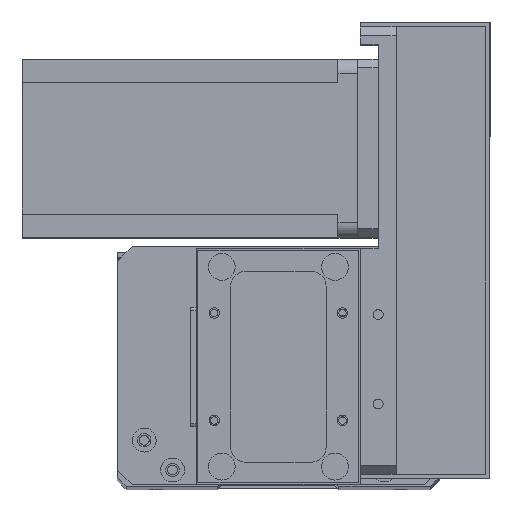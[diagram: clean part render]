
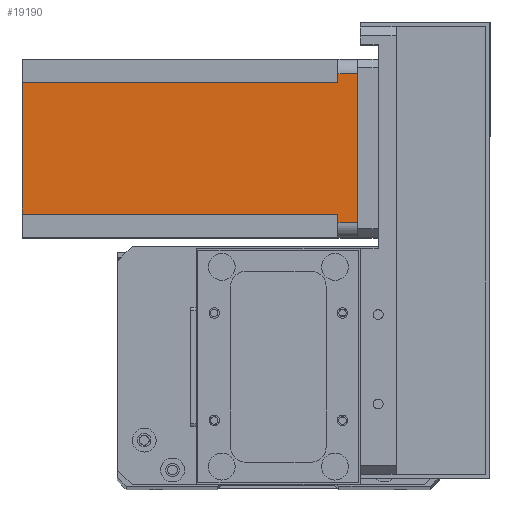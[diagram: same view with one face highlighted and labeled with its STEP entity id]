
A CAD part, top view. The second image highlights one B-rep face of the part: STEP entity #19190.
In plain terms, the highlighted planar face has unit normal (0, 0, 1) as drawn and (0, 1, 0) by its records, which use the part's own axes.
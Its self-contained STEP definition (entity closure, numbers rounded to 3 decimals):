
#122 = LINE ( 'NONE', #17289, #5462 ) ;
#140 = VECTOR ( 'NONE', #14496, 1000. ) ;
#625 = LINE ( 'NONE', #15542, #24850 ) ;
#713 = EDGE_CURVE ( 'NONE', #24112, #7636, #24372, .T. ) ;
#848 = CARTESIAN_POINT ( 'NONE',  ( 55., 60., -112.5 ) ) ;
#959 = DIRECTION ( 'NONE',  ( 0., 0., -1. ) ) ;
#1084 = CARTESIAN_POINT ( 'NONE',  ( 5., 60., 0. ) ) ;
#1354 = DIRECTION ( 'NONE',  ( 0., 0., 1. ) ) ;
#1752 = CARTESIAN_POINT ( 'NONE',  ( 0., 60., -112.5 ) ) ;
#1962 = ORIENTED_EDGE ( 'NONE', *, *, #21440, .F. ) ;
#2523 = LINE ( 'NONE', #23809, #13247 ) ;
#3259 = CARTESIAN_POINT ( 'NONE',  ( 8., 60., -112.5 ) ) ;
#3532 = FACE_OUTER_BOUND ( 'NONE', #17553, .T. ) ;
#4035 = DIRECTION ( 'NONE',  ( 0., 0., 1. ) ) ;
#5161 = VERTEX_POINT ( 'NONE', #23355 ) ;
#5364 = CARTESIAN_POINT ( 'NONE',  ( 52., 60., -6.5 ) ) ;
#5387 = ORIENTED_EDGE ( 'NONE', *, *, #14589, .T. ) ;
#5462 = VECTOR ( 'NONE', #1354, 1000. ) ;
#6537 = ORIENTED_EDGE ( 'NONE', *, *, #11508, .F. ) ;
#6639 = AXIS2_PLACEMENT_3D ( 'NONE', #1752, #17688, #4035 ) ;
#7327 = VERTEX_POINT ( 'NONE', #21091 ) ;
#7636 = VERTEX_POINT ( 'NONE', #19896 ) ;
#8824 = EDGE_CURVE ( 'NONE', #12025, #7636, #27290, .T. ) ;
#8895 = DIRECTION ( 'NONE',  ( -1., 0., 0. ) ) ;
#9018 = ORIENTED_EDGE ( 'NONE', *, *, #15761, .F. ) ;
#10091 = VERTEX_POINT ( 'NONE', #1084 ) ;
#10843 = PLANE ( 'NONE',  #6639 ) ;
#11508 = EDGE_CURVE ( 'NONE', #7327, #12025, #122, .T. ) ;
#12025 = VERTEX_POINT ( 'NONE', #16858 ) ;
#12674 = VERTEX_POINT ( 'NONE', #3259 ) ;
#12688 = EDGE_CURVE ( 'NONE', #7327, #12674, #2523, .T. ) ;
#13247 = VECTOR ( 'NONE', #26074, 1000. ) ;
#14468 = LINE ( 'NONE', #28209, #25868 ) ;
#14496 = DIRECTION ( 'NONE',  ( 0., 0., -1. ) ) ;
#14589 = EDGE_CURVE ( 'NONE', #5161, #10091, #29121, .T. ) ;
#15342 = VECTOR ( 'NONE', #8895, 1000. ) ;
#15542 = CARTESIAN_POINT ( 'NONE',  ( 0., 60., 0. ) ) ;
#15761 = EDGE_CURVE ( 'NONE', #17343, #12674, #14468, .T. ) ;
#16595 = CARTESIAN_POINT ( 'NONE',  ( 55., 60., 0. ) ) ;
#16858 = CARTESIAN_POINT ( 'NONE',  ( 52., 60., -6.5 ) ) ;
#17289 = CARTESIAN_POINT ( 'NONE',  ( 52., 60., -112.5 ) ) ;
#17343 = VERTEX_POINT ( 'NONE', #25262 ) ;
#17553 = EDGE_LOOP ( 'NONE', ( #1962, #21631, #29012, #6537, #23896, #9018, #25599, #5387 ) ) ;
#17688 = DIRECTION ( 'NONE',  ( 0., 1., 0. ) ) ;
#18484 = EDGE_CURVE ( 'NONE', #17343, #5161, #21411, .T. ) ;
#19000 = DIRECTION ( 'NONE',  ( 1., 0., 0. ) ) ;
#19190 = ADVANCED_FACE ( 'NONE', ( #3532 ), #10843, .T. ) ;
#19896 = CARTESIAN_POINT ( 'NONE',  ( 55., 60., -6.5 ) ) ;
#21091 = CARTESIAN_POINT ( 'NONE',  ( 52., 60., -112.5 ) ) ;
#21411 = LINE ( 'NONE', #22525, #15342 ) ;
#21440 = EDGE_CURVE ( 'NONE', #24112, #10091, #625, .T. ) ;
#21631 = ORIENTED_EDGE ( 'NONE', *, *, #713, .T. ) ;
#22525 = CARTESIAN_POINT ( 'NONE',  ( 8., 60., -6.5 ) ) ;
#22679 = VECTOR ( 'NONE', #19000, 1000. ) ;
#23355 = CARTESIAN_POINT ( 'NONE',  ( 5., 60., -6.5 ) ) ;
#23809 = CARTESIAN_POINT ( 'NONE',  ( 0., 60., -112.5 ) ) ;
#23896 = ORIENTED_EDGE ( 'NONE', *, *, #12688, .T. ) ;
#23940 = CARTESIAN_POINT ( 'NONE',  ( 5., 60., -112.5 ) ) ;
#24112 = VERTEX_POINT ( 'NONE', #16595 ) ;
#24372 = LINE ( 'NONE', #848, #140 ) ;
#24850 = VECTOR ( 'NONE', #27000, 1000. ) ;
#25262 = CARTESIAN_POINT ( 'NONE',  ( 8., 60., -6.5 ) ) ;
#25599 = ORIENTED_EDGE ( 'NONE', *, *, #18484, .T. ) ;
#25868 = VECTOR ( 'NONE', #959, 1000. ) ;
#26074 = DIRECTION ( 'NONE',  ( -1., 0., 0. ) ) ;
#26214 = DIRECTION ( 'NONE',  ( 0., 0., 1. ) ) ;
#27000 = DIRECTION ( 'NONE',  ( -1., 0., 0. ) ) ;
#27290 = LINE ( 'NONE', #5364, #22679 ) ;
#28209 = CARTESIAN_POINT ( 'NONE',  ( 8., 60., -112.5 ) ) ;
#28409 = VECTOR ( 'NONE', #26214, 1000. ) ;
#29012 = ORIENTED_EDGE ( 'NONE', *, *, #8824, .F. ) ;
#29121 = LINE ( 'NONE', #23940, #28409 ) ;
